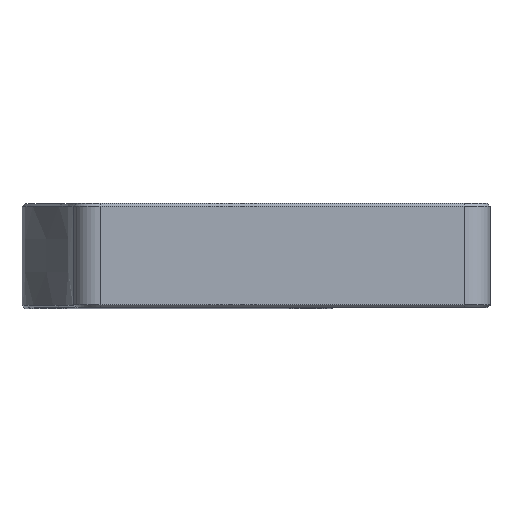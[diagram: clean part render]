
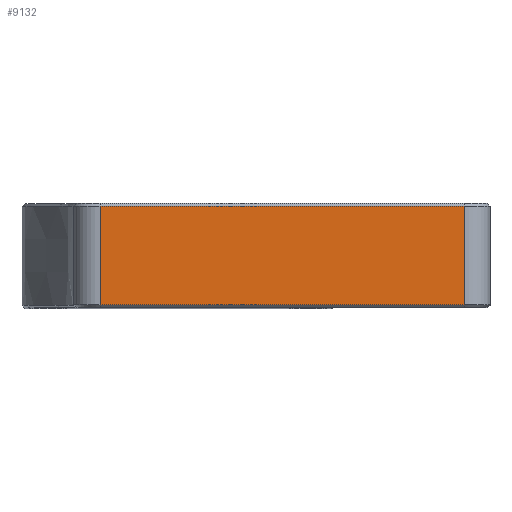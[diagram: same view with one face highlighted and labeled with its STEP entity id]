
A CAD part, top view. The second image highlights one B-rep face of the part: STEP entity #9132.
In plain terms, the highlighted planar face has unit normal (0, 0, 1).
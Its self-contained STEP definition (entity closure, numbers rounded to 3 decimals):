
#268=PLANE('',#9595);
#678=FACE_OUTER_BOUND('',#1128,.T.);
#1128=EDGE_LOOP('',(#6545,#6546,#6547,#6548));
#1723=LINE('',#12415,#2958);
#1755=LINE('',#12654,#2990);
#1762=LINE('',#12669,#2997);
#1763=LINE('',#12671,#2998);
#2958=VECTOR('',#10084,10.);
#2990=VECTOR('',#10174,10.);
#2997=VECTOR('',#10193,10.);
#2998=VECTOR('',#10196,10.);
#4193=VERTEX_POINT('',#12408);
#4195=VERTEX_POINT('',#12414);
#4223=VERTEX_POINT('',#12646);
#4225=VERTEX_POINT('',#12652);
#5085=EDGE_CURVE('',#4193,#4195,#1723,.T.);
#5134=EDGE_CURVE('',#4225,#4223,#1755,.T.);
#5143=EDGE_CURVE('',#4223,#4193,#1762,.T.);
#5144=EDGE_CURVE('',#4195,#4225,#1763,.T.);
#6545=ORIENTED_EDGE('',*,*,#5085,.F.);
#6546=ORIENTED_EDGE('',*,*,#5143,.F.);
#6547=ORIENTED_EDGE('',*,*,#5134,.F.);
#6548=ORIENTED_EDGE('',*,*,#5144,.F.);
#9132=ADVANCED_FACE('',(#678),#268,.T.);
#9595=AXIS2_PLACEMENT_3D('',#12670,#10194,#10195);
#10084=DIRECTION('',(1.,0.,0.));
#10174=DIRECTION('',(-1.,0.,0.));
#10193=DIRECTION('',(0.,1.,0.));
#10194=DIRECTION('center_axis',(0.,0.,1.));
#10195=DIRECTION('ref_axis',(1.,0.,0.));
#10196=DIRECTION('',(0.,-1.,0.));
#12408=CARTESIAN_POINT('',(15.,-0.5,125.));
#12414=CARTESIAN_POINT('',(85.,-0.5,125.));
#12415=CARTESIAN_POINT('',(30.,-0.5,125.));
#12646=CARTESIAN_POINT('',(15.,-19.5,125.));
#12652=CARTESIAN_POINT('',(85.,-19.5,125.));
#12654=CARTESIAN_POINT('',(70.,-19.5,125.));
#12669=CARTESIAN_POINT('',(15.,-15.,125.));
#12670=CARTESIAN_POINT('Origin',(50.,-10.,125.));
#12671=CARTESIAN_POINT('',(85.,-5.,125.));
